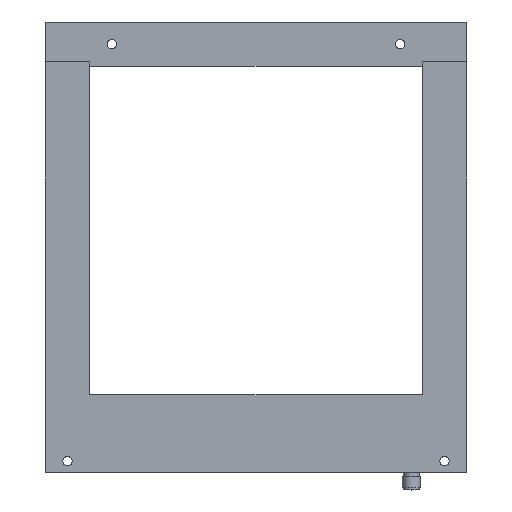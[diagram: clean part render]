
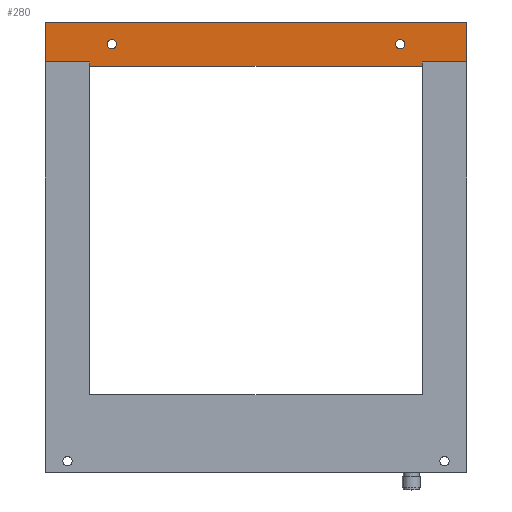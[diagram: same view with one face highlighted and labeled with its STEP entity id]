
A CAD part, top view. The second image highlights one B-rep face of the part: STEP entity #280.
In plain terms, the highlighted planar face has unit normal (0, 0, 1).
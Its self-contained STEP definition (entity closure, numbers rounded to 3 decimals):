
#280=ADVANCED_FACE('',(#549,#550,#551),#552,.T.);
#549=FACE_OUTER_BOUND('',#840,.T.);
#550=FACE_BOUND('',#841,.T.);
#551=FACE_BOUND('',#842,.T.);
#552=PLANE('',#843);
#840=EDGE_LOOP('',(#1521,#1522,#1523,#1524,#1525,#1526,#1527,#1528));
#841=EDGE_LOOP('',(#1529,#1530));
#842=EDGE_LOOP('',(#1531,#1532));
#843=AXIS2_PLACEMENT_3D('',#1533,#1534,#1535);
#1521=ORIENTED_EDGE('',*,*,#1616,.F.);
#1522=ORIENTED_EDGE('',*,*,#1684,.F.);
#1523=ORIENTED_EDGE('',*,*,#1829,.F.);
#1524=ORIENTED_EDGE('',*,*,#1755,.F.);
#1525=ORIENTED_EDGE('',*,*,#1651,.T.);
#1526=ORIENTED_EDGE('',*,*,#1837,.T.);
#1527=ORIENTED_EDGE('',*,*,#1854,.F.);
#1528=ORIENTED_EDGE('',*,*,#1626,.F.);
#1529=ORIENTED_EDGE('',*,*,#1570,.T.);
#1530=ORIENTED_EDGE('',*,*,#1568,.T.);
#1531=ORIENTED_EDGE('',*,*,#1761,.T.);
#1532=ORIENTED_EDGE('',*,*,#1771,.T.);
#1533=CARTESIAN_POINT('',(0.,95.69,10.0));
#1534=DIRECTION('',(0.0,0.0,1.0));
#1535=DIRECTION('',(1.0,0.0,0.0));
#1568=EDGE_CURVE('',#1951,#1955,#1957,.T.);
#1570=EDGE_CURVE('',#1955,#1951,#1959,.T.);
#1616=EDGE_CURVE('',#2039,#2040,#2041,.T.);
#1626=EDGE_CURVE('',#2040,#2057,#2058,.T.);
#1651=EDGE_CURVE('',#2096,#2097,#2098,.T.);
#1684=EDGE_CURVE('',#2150,#2039,#2151,.T.);
#1755=EDGE_CURVE('',#2096,#2270,#2271,.T.);
#1761=EDGE_CURVE('',#2278,#2276,#2279,.T.);
#1771=EDGE_CURVE('',#2276,#2278,#2293,.T.);
#1829=EDGE_CURVE('',#2270,#2150,#2391,.T.);
#1837=EDGE_CURVE('',#2097,#2402,#2404,.T.);
#1854=EDGE_CURVE('',#2057,#2402,#2433,.T.);
#1951=VERTEX_POINT('',#2610);
#1955=VERTEX_POINT('',#2615);
#1957=CIRCLE('',#2618,2.15);
#1959=CIRCLE('',#2620,2.15);
#2039=VERTEX_POINT('',#2720);
#2040=VERTEX_POINT('',#2721);
#2041=LINE('',#2722,#2723);
#2057=VERTEX_POINT('',#2744);
#2058=LINE('',#2745,#2746);
#2096=VERTEX_POINT('',#2792);
#2097=VERTEX_POINT('',#2793);
#2098=LINE('',#2794,#2795);
#2150=VERTEX_POINT('',#2863);
#2151=LINE('',#2864,#2865);
#2270=VERTEX_POINT('',#3015);
#2271=LINE('',#3016,#3017);
#2276=VERTEX_POINT('',#3023);
#2278=VERTEX_POINT('',#3026);
#2279=CIRCLE('',#3027,2.15);
#2293=CIRCLE('',#3044,2.15);
#2391=LINE('',#3168,#3169);
#2402=VERTEX_POINT('',#3182);
#2404=LINE('',#3185,#3186);
#2433=LINE('',#3223,#3224);
#2610=CARTESIAN_POINT('',(67.15,95.5,10.0));
#2615=CARTESIAN_POINT('',(62.85,95.5,10.0));
#2618=AXIS2_PLACEMENT_3D('',#3462,#3463,#3464);
#2620=AXIS2_PLACEMENT_3D('',#3465,#3466,#3467);
#2720=CARTESIAN_POINT('',(95.0,87.5,10.));
#2721=CARTESIAN_POINT('',(75.0,87.5,10.));
#2722=CARTESIAN_POINT('',(95.0,87.5,10.));
#2723=VECTOR('',#3539,20.0);
#2744=CARTESIAN_POINT('',(75.0,85.5,10.0));
#2745=CARTESIAN_POINT('',(75.0,87.5,10.0));
#2746=VECTOR('',#3551,150.0);
#2792=CARTESIAN_POINT('',(-95.0,87.5,10.));
#2793=CARTESIAN_POINT('',(-75.0,87.5,10.));
#2794=CARTESIAN_POINT('',(-95.0,87.5,10.));
#2795=VECTOR('',#3589,20.0);
#2863=CARTESIAN_POINT('',(95.0,105.5,10.0));
#2864=CARTESIAN_POINT('',(95.0,105.5,10.0));
#2865=VECTOR('',#3631,1.0);
#3015=CARTESIAN_POINT('',(-95.0,105.5,10.0));
#3016=CARTESIAN_POINT('',(-95.0,87.5,10.0));
#3017=VECTOR('',#3731,1.0);
#3023=CARTESIAN_POINT('',(-62.85,95.5,10.0));
#3026=CARTESIAN_POINT('',(-67.15,95.5,10.0));
#3027=AXIS2_PLACEMENT_3D('',#3737,#3738,#3739);
#3044=AXIS2_PLACEMENT_3D('',#3751,#3752,#3753);
#3168=CARTESIAN_POINT('',(-95.0,105.5,10.0));
#3169=VECTOR('',#3831,1.0);
#3182=CARTESIAN_POINT('',(-75.0,85.5,10.0));
#3185=CARTESIAN_POINT('',(-75.0,87.5,10.));
#3186=VECTOR('',#3840,150.0);
#3223=CARTESIAN_POINT('',(75.0,85.5,10.0));
#3224=VECTOR('',#3860,1.0);
#3462=CARTESIAN_POINT('',(65.0,95.5,10.0));
#3463=DIRECTION('',(0.0,0.0,-1.0));
#3464=DIRECTION('',(1.0,0.0,0.0));
#3465=CARTESIAN_POINT('',(65.0,95.5,10.0));
#3466=DIRECTION('',(0.0,0.0,-1.0));
#3467=DIRECTION('',(1.0,0.0,0.0));
#3539=DIRECTION('',(-1.0,0.0,0.0));
#3551=DIRECTION('',(0.0,-1.0,0.0));
#3589=DIRECTION('',(1.0,0.0,0.0));
#3631=DIRECTION('',(0.,-1.0,0.0));
#3731=DIRECTION('',(0.,1.0,0.0));
#3737=CARTESIAN_POINT('',(-65.0,95.5,10.0));
#3738=DIRECTION('',(0.0,0.0,-1.0));
#3739=DIRECTION('',(1.0,0.0,0.0));
#3751=CARTESIAN_POINT('',(-65.0,95.5,10.0));
#3752=DIRECTION('',(0.0,0.0,-1.0));
#3753=DIRECTION('',(1.0,0.0,0.0));
#3831=DIRECTION('',(1.0,0.0,0.0));
#3840=DIRECTION('',(0.,-1.0,0.0));
#3860=DIRECTION('',(-1.0,0.0,0.0));
